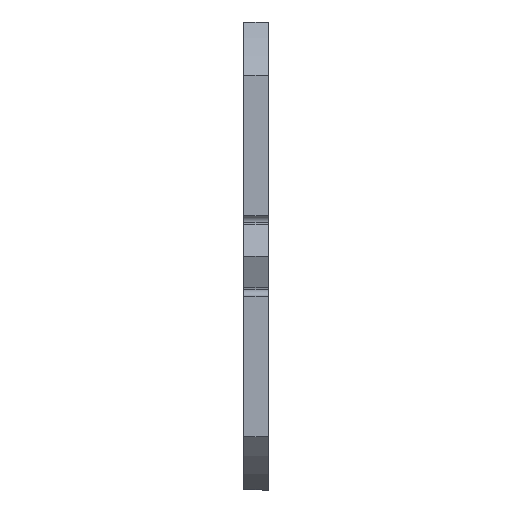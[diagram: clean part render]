
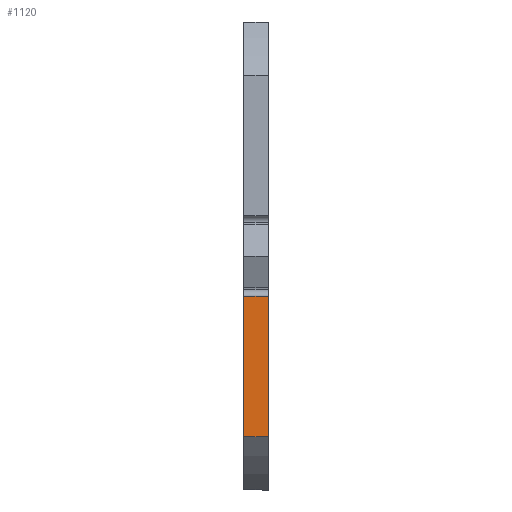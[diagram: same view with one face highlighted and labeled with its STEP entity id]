
A CAD part, left-side view. The second image highlights one B-rep face of the part: STEP entity #1120.
In plain terms, the highlighted planar face has unit normal (-1, 0, 0).
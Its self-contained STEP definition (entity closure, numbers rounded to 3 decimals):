
#157 = VECTOR ( 'NONE', #2518, 1000. ) ;
#189 = ORIENTED_EDGE ( 'NONE', *, *, #728, .F. ) ;
#242 = DIRECTION ( 'NONE',  ( 0., 1., 0. ) ) ;
#255 = CARTESIAN_POINT ( 'NONE',  ( -190., 20., -146.629 ) ) ;
#346 = DIRECTION ( 'NONE',  ( 0., 0., -1. ) ) ;
#460 = VERTEX_POINT ( 'NONE', #534 ) ;
#501 = CARTESIAN_POINT ( 'NONE',  ( -190., 0., -32.5 ) ) ;
#534 = CARTESIAN_POINT ( 'NONE',  ( -190., 20., -32.5 ) ) ;
#599 = CARTESIAN_POINT ( 'NONE',  ( -190., 0., -32.5 ) ) ;
#728 = EDGE_CURVE ( 'NONE', #3148, #2980, #1967, .T. ) ;
#846 = FACE_OUTER_BOUND ( 'NONE', #893, .T. ) ;
#893 = EDGE_LOOP ( 'NONE', ( #3206, #189, #1773, #3202 ) ) ;
#1062 = DIRECTION ( 'NONE',  ( 0., 0., -1. ) ) ;
#1079 = LINE ( 'NONE', #1376, #2419 ) ;
#1110 = VERTEX_POINT ( 'NONE', #599 ) ;
#1120 = ADVANCED_FACE ( 'NONE', ( #846 ), #1608, .F. ) ;
#1335 = EDGE_CURVE ( 'NONE', #1110, #460, #1499, .T. ) ;
#1376 = CARTESIAN_POINT ( 'NONE',  ( -190., 20., -32.5 ) ) ;
#1465 = EDGE_CURVE ( 'NONE', #460, #2980, #1079, .T. ) ;
#1499 = LINE ( 'NONE', #2046, #3352 ) ;
#1560 = DIRECTION ( 'NONE',  ( 0., 0., -1. ) ) ;
#1600 = LINE ( 'NONE', #501, #2423 ) ;
#1608 = PLANE ( 'NONE',  #1736 ) ;
#1670 = CARTESIAN_POINT ( 'NONE',  ( -190., 0., -146.629 ) ) ;
#1736 = AXIS2_PLACEMENT_3D ( 'NONE', #1929, #2728, #346 ) ;
#1773 = ORIENTED_EDGE ( 'NONE', *, *, #1786, .F. ) ;
#1786 = EDGE_CURVE ( 'NONE', #1110, #3148, #1600, .T. ) ;
#1929 = CARTESIAN_POINT ( 'NONE',  ( -190., 0., -32.5 ) ) ;
#1967 = LINE ( 'NONE', #3092, #157 ) ;
#2046 = CARTESIAN_POINT ( 'NONE',  ( -190., 0., -32.5 ) ) ;
#2419 = VECTOR ( 'NONE', #1062, 1000. ) ;
#2423 = VECTOR ( 'NONE', #1560, 1000. ) ;
#2518 = DIRECTION ( 'NONE',  ( 0., 1., 0. ) ) ;
#2728 = DIRECTION ( 'NONE',  ( 1., 0., 0. ) ) ;
#2980 = VERTEX_POINT ( 'NONE', #255 ) ;
#3092 = CARTESIAN_POINT ( 'NONE',  ( -190., 0., -146.629 ) ) ;
#3148 = VERTEX_POINT ( 'NONE', #1670 ) ;
#3202 = ORIENTED_EDGE ( 'NONE', *, *, #1335, .T. ) ;
#3206 = ORIENTED_EDGE ( 'NONE', *, *, #1465, .T. ) ;
#3352 = VECTOR ( 'NONE', #242, 1000. ) ;
